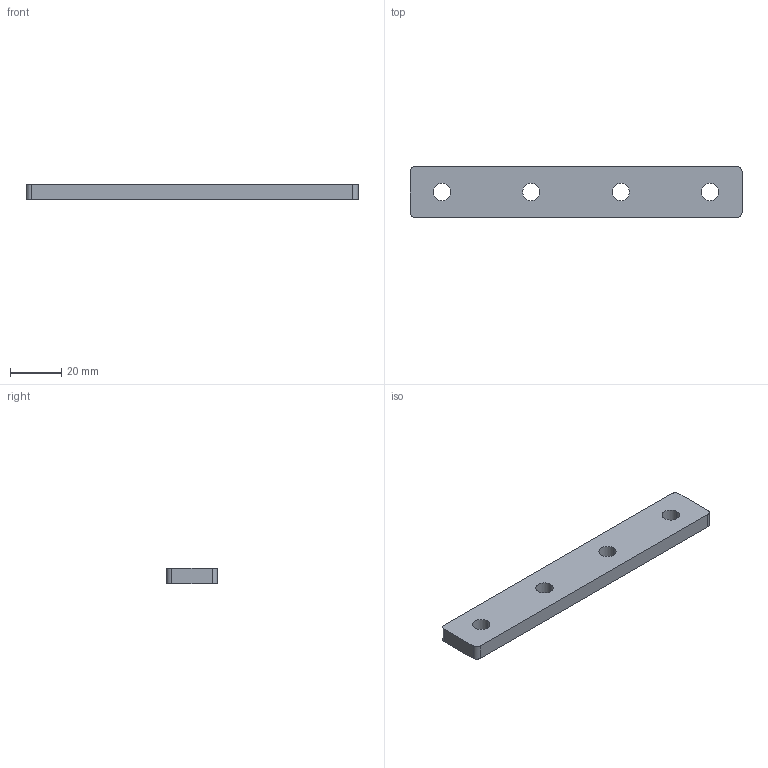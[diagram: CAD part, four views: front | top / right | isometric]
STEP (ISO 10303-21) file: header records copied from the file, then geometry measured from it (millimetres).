
FILE_DESCRIPTION (( 'STEP AP214' ), '1' );
FILE_NAME ('FACS 20x130A.step', '2017-04-05T07:36:32', ( '' ), ( '' ), 'SwSTEP 2.0', 'SolidWorks 2015', '' );
FILE_SCHEMA (( 'AUTOMOTIVE_DESIGN' ));
Length unit declared in the file: millimetre
Products named in the file (1): FACS 20x130A
Bounding box: 130 x 20 x 6 mm (x, y, z)
Volume: 14707.8 mm3; surface area: 7194.7 mm2
Topology: 1 solids, 1 shells, 18 faces, 48 edges, 32 vertices
Faces by surface type: cylinder 12, plane 6
Entity records: 714 total; most frequent: DIRECTION 110, CARTESIAN_POINT 99, ORIENTED_EDGE 96, EDGE_CURVE 48, AXIS2_PLACEMENT_3D 43, VERTEX_POINT 32, EDGE_LOOP 26, CIRCLE 24
